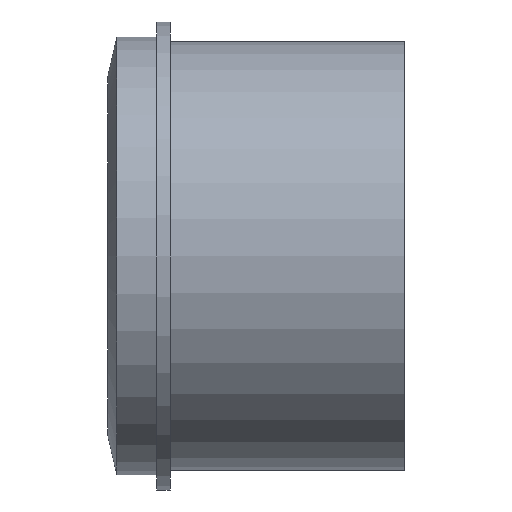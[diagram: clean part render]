
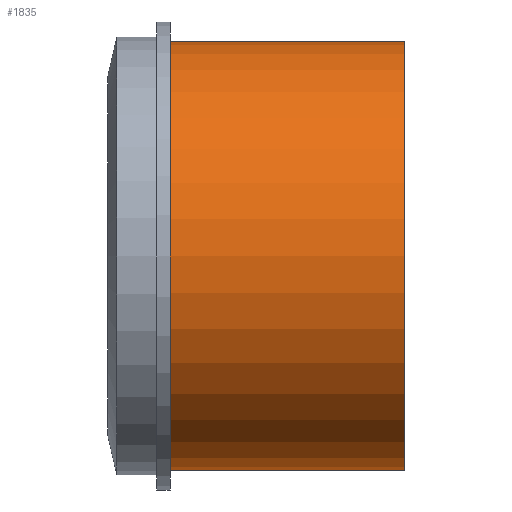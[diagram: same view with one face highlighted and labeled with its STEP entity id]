
A CAD part, front view. The second image highlights one B-rep face of the part: STEP entity #1835.
In plain terms, the highlighted cylindrical face has radius 55 mm (diameter 110 mm), a full revolution.
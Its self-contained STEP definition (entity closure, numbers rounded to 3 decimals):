
#19=FACE_BOUND($,#260,.T.);
#31=CYLINDRICAL_SURFACE($,#1968,55.);
#72=CIRCLE($,#1967,55.);
#73=CIRCLE($,#1969,55.);
#163=FACE_OUTER_BOUND($,#259,.T.);
#259=EDGE_LOOP($,(#1501));
#260=EDGE_LOOP($,(#1502));
#833=VERTEX_POINT($,#2937);
#834=VERTEX_POINT($,#2940);
#1077=EDGE_CURVE($,#833,#833,#72,.T.);
#1078=EDGE_CURVE($,#834,#834,#73,.T.);
#1501=ORIENTED_EDGE($,*,*,#1078,.F.);
#1502=ORIENTED_EDGE($,*,*,#1077,.T.);
#1835=ADVANCED_FACE($,(#163,#19),#31,.T.);
#1967=AXIS2_PLACEMENT_3D($,#2938,#2426,#2427);
#1968=AXIS2_PLACEMENT_3D($,#2939,#2428,#2429);
#1969=AXIS2_PLACEMENT_3D($,#2941,#2430,#2431);
#2426=DIRECTION('center_axis',(1.,0.,0.));
#2427=DIRECTION('ref_axis',(0.,1.,0.));
#2428=DIRECTION('center_axis',(1.,0.,0.));
#2429=DIRECTION('ref_axis',(0.,1.,0.));
#2430=DIRECTION('center_axis',(1.,0.,0.));
#2431=DIRECTION('ref_axis',(0.,1.,0.));
#2937=CARTESIAN_POINT('',(-60.,55.,0.));
#2938=CARTESIAN_POINT('Origin',(-60.,0.,0.));
#2939=CARTESIAN_POINT('Origin',(-30.,0.,0.));
#2940=CARTESIAN_POINT('',(0.,55.,0.));
#2941=CARTESIAN_POINT('Origin',(0.,0.,
0.));
